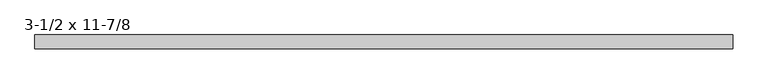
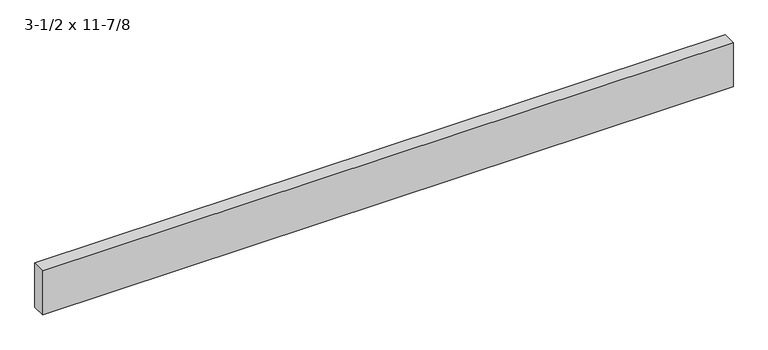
"""IFC4 building model written with IfcOpenShell, lengths in millimetres: beam geometry, Trus Joist - Parallam PSL - Beam Header : 3-1/2 x 11-7/8."""

from ifc_helpers import new_model, si_unit, frame, origin, place, context, project, spatial, polyline, outline, extrude, source, transform, mapped, element, save


def beam_3_1_2_x_11_7_8_c8e1acfa(model_context):
    return source(origin(), model_context, "Body", "SweptSolid", [
        extrude(outline(polyline([(2235.1999994, 44.45), (2235.1999994, -44.45), (-2232.025, -44.45), (-2232.025, 44.45), (2235.1999994, 44.45)])), frame((0.0, 0.0, -150.8125), z_axis=(0.0, 0.0, 1.0), x_axis=(1.0, 0.0, 0.0)), (0.0, 0.0, 1.0), 301.625),
    ])


if __name__ == "__main__":
    model = new_model("IFC4")
    model_context = context("Model", 3, world=origin())
    ifc_project = project(units=[si_unit("LENGTHUNIT", "METRE", prefix="MILLI")], contexts=[model_context])
    site = spatial("IfcSite", under=ifc_project)
    building = spatial("IfcBuilding", under=site)
    placement = place(None, origin())
    beam_3_1_2_x_11_7_8_shape = beam_3_1_2_x_11_7_8_c8e1acfa(model_context)
    element("IfcBeam", 1, ObjectType="Trus Joist - Parallam PSL - Beam Header : 3-1/2 x 11-7/8", at=placement, inside=building, context=model_context, shape_type="MappedRepresentation", body=[
        mapped(beam_3_1_2_x_11_7_8_shape, transform((0.0, 0.0, 0.0), x_axis=(1.0, 0.0, 0.0), y_axis=(0.0, 1.0, 0.0), z_axis=(0.0, 0.0, 1.0))),
    ])
    save(model, "model.ifc")
